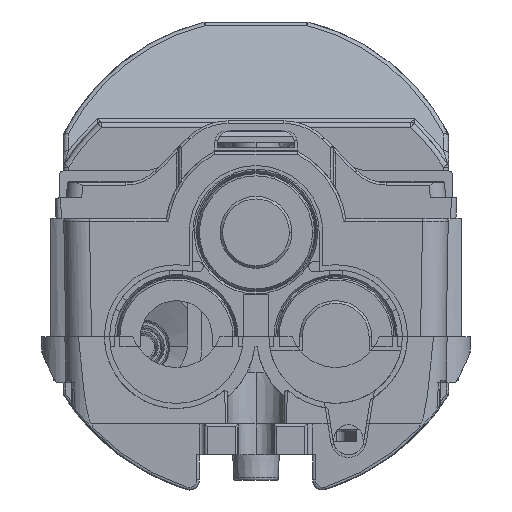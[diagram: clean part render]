
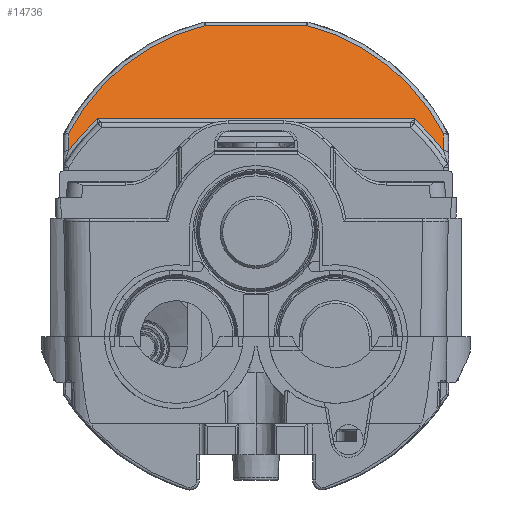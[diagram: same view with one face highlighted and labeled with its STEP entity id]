
A CAD part, left-side view. The second image highlights one B-rep face of the part: STEP entity #14736.
In plain terms, the highlighted planar face has unit normal (-0.94, 0, 0.342).
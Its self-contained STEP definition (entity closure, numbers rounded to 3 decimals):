
#1873 = EDGE_CURVE ( 'NONE', #14858, #5995, #33171, .T. ) ;
#2455 = LINE ( 'NONE', #20280, #12687 ) ;
#2882 = CARTESIAN_POINT ( 'NONE',  ( -162.942, -9.878, 94.592 ) ) ;
#3976 = VERTEX_POINT ( 'NONE', #7071 ) ;
#4120 = CARTESIAN_POINT ( 'NONE',  ( -162.942, -9.878, 94.592 ) ) ;
#4477 = CARTESIAN_POINT ( 'NONE',  ( -170.628, 36.5, 73.475 ) ) ;
#5995 = VERTEX_POINT ( 'NONE', #4120 ) ;
#6564 = DIRECTION ( 'NONE',  ( -0.94, 0., 0.342 ) ) ;
#7040 = VECTOR ( 'NONE', #21139, 1000. ) ;
#7071 = CARTESIAN_POINT ( 'NONE',  ( -169.561, -30.898, 76.408 ) ) ;
#7846 = CARTESIAN_POINT ( 'NONE',  ( -171.011, -34.827, 72.422 ) ) ;
#11539 = VERTEX_POINT ( 'NONE', #37030 ) ;
#11802 = CARTESIAN_POINT ( 'NONE',  ( -170.628, -36.5, 73.475 ) ) ;
#12645 = AXIS2_PLACEMENT_3D ( 'NONE', #32082, #6564, #36336 ) ;
#12687 = VECTOR ( 'NONE', #24489, 1000. ) ;
#14736 = ADVANCED_FACE ( 'NONE', ( #25398 ), #27740, .T. ) ;
#14858 = VERTEX_POINT ( 'NONE', #11802 ) ;
#14872 = CARTESIAN_POINT ( 'NONE',  ( -170.628, 36.5, 73.475 ) ) ;
#15280 = CARTESIAN_POINT ( 'NONE',  ( -163.999, -21.572, 91.689 ) ) ;
#16527 = VERTEX_POINT ( 'NONE', #4477 ) ;
#16655 =( BOUNDED_CURVE ( )  B_SPLINE_CURVE ( 3, ( #49549, #20447, #7846, #37502 ),
 .UNSPECIFIED., .F., .T. ) 
 B_SPLINE_CURVE_WITH_KNOTS ( ( 4, 4 ),
 ( 3.888, 4.073 ),
 .UNSPECIFIED. ) 
 CURVE ( )  GEOMETRIC_REPRESENTATION_ITEM ( )  RATIONAL_B_SPLINE_CURVE ( ( 1., 0.997, 0.997, 1. ) ) 
 REPRESENTATION_ITEM ( '' )  );
#17257 = VERTEX_POINT ( 'NONE', #19636 ) ;
#18471 = ORIENTED_EDGE ( 'NONE', *, *, #23877, .T. ) ;
#19583 = CARTESIAN_POINT ( 'NONE',  ( -171.829, 36.5, 70.174 ) ) ;
#19636 = CARTESIAN_POINT ( 'NONE',  ( -171.829, 36.5, 70.174 ) ) ;
#20146 = CARTESIAN_POINT ( 'NONE',  ( -171.011, 34.827, 72.422 ) ) ;
#20280 = CARTESIAN_POINT ( 'NONE',  ( -169.561, 38.25, 76.408 ) ) ;
#20447 = CARTESIAN_POINT ( 'NONE',  ( -170.253, -32.955, 74.505 ) ) ;
#20993 = CARTESIAN_POINT ( 'NONE',  ( -166.724, -31.012, 84.201 ) ) ;
#21039 = CARTESIAN_POINT ( 'NONE',  ( -169.8, 36.5, 75.75 ) ) ;
#21139 = DIRECTION ( 'NONE',  ( 0.342, 0., 0.94 ) ) ;
#22301 = CARTESIAN_POINT ( 'NONE',  ( -162.942, 10., 94.592 ) ) ;
#22922 =( BOUNDED_CURVE ( )  B_SPLINE_CURVE ( 3, ( #48096, #40057, #40221, #14872 ),
 .UNSPECIFIED., .F., .T. ) 
 B_SPLINE_CURVE_WITH_KNOTS ( ( 4, 4 ),
 ( 0.243, 1.098 ),
 .UNSPECIFIED. ) 
 CURVE ( )  GEOMETRIC_REPRESENTATION_ITEM ( )  RATIONAL_B_SPLINE_CURVE ( ( 1., 0.94, 0.94, 1. ) ) 
 REPRESENTATION_ITEM ( '' )  );
#23310 = LINE ( 'NONE', #21039, #24646 ) ;
#23877 = EDGE_CURVE ( 'NONE', #11539, #14858, #29636, .T. ) ;
#24489 = DIRECTION ( 'NONE',  ( 0., -1., 0. ) ) ;
#24646 = VECTOR ( 'NONE', #50150, 1000. ) ;
#25367 = CARTESIAN_POINT ( 'NONE',  ( -169.8, -36.5, 75.75 ) ) ;
#25398 = FACE_OUTER_BOUND ( 'NONE', #44520, .T. ) ;
#26748 = ORIENTED_EDGE ( 'NONE', *, *, #1873, .T. ) ;
#27102 = EDGE_CURVE ( 'NONE', #3976, #11539, #16655, .T. ) ;
#27554 =( BOUNDED_CURVE ( )  B_SPLINE_CURVE ( 3, ( #19583, #20146, #53623, #28644 ),
 .UNSPECIFIED., .F., .F. ) 
 B_SPLINE_CURVE_WITH_KNOTS ( ( 4, 4 ),
 ( 2.211, 2.395 ),
 .UNSPECIFIED. ) 
 CURVE ( )  GEOMETRIC_REPRESENTATION_ITEM ( )  RATIONAL_B_SPLINE_CURVE ( ( 1., 0.997, 0.997, 1. ) ) 
 REPRESENTATION_ITEM ( '' )  );
#27740 = PLANE ( 'NONE',  #12645 ) ;
#28622 = EDGE_CURVE ( 'NONE', #5995, #43264, #31859, .T. ) ;
#28644 = CARTESIAN_POINT ( 'NONE',  ( -169.561, 30.898, 76.408 ) ) ;
#28800 = EDGE_CURVE ( 'NONE', #48223, #3976, #2455, .T. ) ;
#29420 = EDGE_CURVE ( 'NONE', #17257, #48223, #27554, .T. ) ;
#29636 = LINE ( 'NONE', #25367, #7040 ) ;
#29974 = ORIENTED_EDGE ( 'NONE', *, *, #28622, .T. ) ;
#30188 = ORIENTED_EDGE ( 'NONE', *, *, #53783, .T. ) ;
#31714 = CARTESIAN_POINT ( 'NONE',  ( -170.628, -36.5, 73.475 ) ) ;
#31859 = LINE ( 'NONE', #22301, #53978 ) ;
#32082 = CARTESIAN_POINT ( 'NONE',  ( -169.8, 38.25, 75.75 ) ) ;
#33171 =( BOUNDED_CURVE ( )  B_SPLINE_CURVE ( 3, ( #31714, #20993, #15280, #2882 ),
 .UNSPECIFIED., .F., .F. ) 
 B_SPLINE_CURVE_WITH_KNOTS ( ( 4, 4 ),
 ( 5.185, 6.04 ),
 .UNSPECIFIED. ) 
 CURVE ( )  GEOMETRIC_REPRESENTATION_ITEM ( )  RATIONAL_B_SPLINE_CURVE ( ( 1., 0.94, 0.94, 1. ) ) 
 REPRESENTATION_ITEM ( '' )  );
#34519 = EDGE_CURVE ( 'NONE', #16527, #17257, #23310, .T. ) ;
#35033 = ORIENTED_EDGE ( 'NONE', *, *, #34519, .T. ) ;
#36336 = DIRECTION ( 'NONE',  ( 0.342, 0., 0.94 ) ) ;
#37030 = CARTESIAN_POINT ( 'NONE',  ( -171.829, -36.5, 70.174 ) ) ;
#37502 = CARTESIAN_POINT ( 'NONE',  ( -171.829, -36.5, 70.174 ) ) ;
#40057 = CARTESIAN_POINT ( 'NONE',  ( -163.999, 21.572, 91.689 ) ) ;
#40221 = CARTESIAN_POINT ( 'NONE',  ( -166.724, 31.012, 84.201 ) ) ;
#41253 = CARTESIAN_POINT ( 'NONE',  ( -169.561, 30.898, 76.408 ) ) ;
#43131 = ORIENTED_EDGE ( 'NONE', *, *, #29420, .T. ) ;
#43264 = VERTEX_POINT ( 'NONE', #46595 ) ;
#44520 = EDGE_LOOP ( 'NONE', ( #29974, #30188, #35033, #43131, #51442, #48279, #18471, #26748 ) ) ;
#46595 = CARTESIAN_POINT ( 'NONE',  ( -162.942, 9.878, 94.592 ) ) ;
#48096 = CARTESIAN_POINT ( 'NONE',  ( -162.942, 9.878, 94.592 ) ) ;
#48223 = VERTEX_POINT ( 'NONE', #41253 ) ;
#48279 = ORIENTED_EDGE ( 'NONE', *, *, #27102, .T. ) ;
#49549 = CARTESIAN_POINT ( 'NONE',  ( -169.561, -30.898, 76.408 ) ) ;
#50150 = DIRECTION ( 'NONE',  ( -0.342, 0., -0.94 ) ) ;
#51418 = DIRECTION ( 'NONE',  ( 0., 1., 0. ) ) ;
#51442 = ORIENTED_EDGE ( 'NONE', *, *, #28800, .T. ) ;
#53623 = CARTESIAN_POINT ( 'NONE',  ( -170.253, 32.955, 74.505 ) ) ;
#53783 = EDGE_CURVE ( 'NONE', #43264, #16527, #22922, .T. ) ;
#53978 = VECTOR ( 'NONE', #51418, 1000. ) ;
